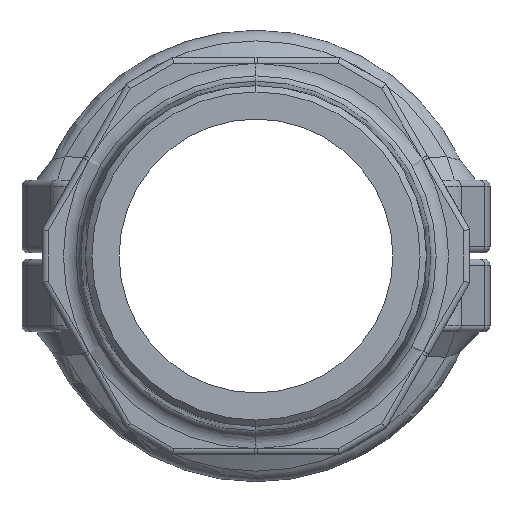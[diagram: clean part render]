
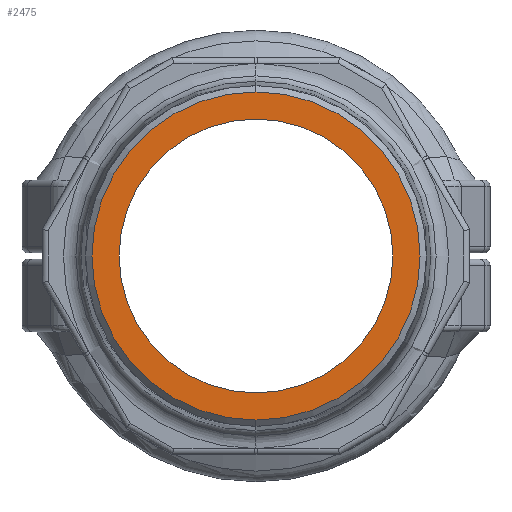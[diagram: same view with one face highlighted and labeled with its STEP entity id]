
A CAD part, left-side view. The second image highlights one B-rep face of the part: STEP entity #2475.
In plain terms, the highlighted planar face has unit normal (-1, 0, 0).
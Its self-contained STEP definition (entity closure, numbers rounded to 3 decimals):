
#938=CARTESIAN_POINT('',(-91.258,0.,0.));
#939=DIRECTION('',(1.,0.,0.));
#940=DIRECTION('',(0.,0.,-1.));
#941=AXIS2_PLACEMENT_3D('',#938,#939,#940);
#946=CARTESIAN_POINT('',(-91.258,0.,0.));
#947=DIRECTION('',(1.,0.,0.));
#948=DIRECTION('',(0.,0.,1.));
#949=AXIS2_PLACEMENT_3D('',#946,#947,#948);
#954=CARTESIAN_POINT('',(-91.258,0.,0.));
#955=DIRECTION('',(-1.,0.,0.));
#956=DIRECTION('',(0.,0.,-1.));
#957=AXIS2_PLACEMENT_3D('',#954,#955,#956);
#962=CARTESIAN_POINT('',(-91.258,0.,0.));
#963=DIRECTION('',(-1.,0.,0.));
#964=DIRECTION('',(0.,0.,1.));
#965=AXIS2_PLACEMENT_3D('',#962,#963,#964);
#1571=CARTESIAN_POINT('',(-91.258,0.,-26.996));
#1572=CARTESIAN_POINT('',(-91.258,0.,26.996));
#1573=VERTEX_POINT('',#1571);
#1574=VERTEX_POINT('',#1572);
#1575=CARTESIAN_POINT('',(-91.258,0.,-22.534));
#1576=CARTESIAN_POINT('',(-91.258,0.,22.534));
#1577=VERTEX_POINT('',#1575);
#1578=VERTEX_POINT('',#1576);
#2459=CARTESIAN_POINT('',(-91.258,26.996,0.));
#2460=DIRECTION('',(1.,0.,0.));
#2461=DIRECTION('',(0.,0.,-1.));
#2462=AXIS2_PLACEMENT_3D('',#2459,#2460,#2461);
#2463=PLANE('',#2462);
#2464=ORIENTED_EDGE('',*,*,#2449,.T.);
#2466=ORIENTED_EDGE('',*,*,#2465,.T.);
#2467=EDGE_LOOP('',(#2464,#2466));
#2468=FACE_OUTER_BOUND('',#2467,.F.);
#2470=ORIENTED_EDGE('',*,*,#2469,.T.);
#2472=ORIENTED_EDGE('',*,*,#2471,.T.);
#2473=EDGE_LOOP('',(#2470,#2472));
#2474=FACE_BOUND('',#2473,.F.);
#942=CIRCLE('',#941,26.996);
#950=CIRCLE('',#949,26.996);
#958=CIRCLE('',#957,22.534);
#966=CIRCLE('',#965,22.534);
#2449=EDGE_CURVE('',#1573,#1574,#942,.T.);
#2465=EDGE_CURVE('',#1574,#1573,#950,.T.);
#2469=EDGE_CURVE('',#1577,#1578,#958,.T.);
#2471=EDGE_CURVE('',#1578,#1577,#966,.T.);
#2475=ADVANCED_FACE('',(#2468,#2474),#2463,.F.);
